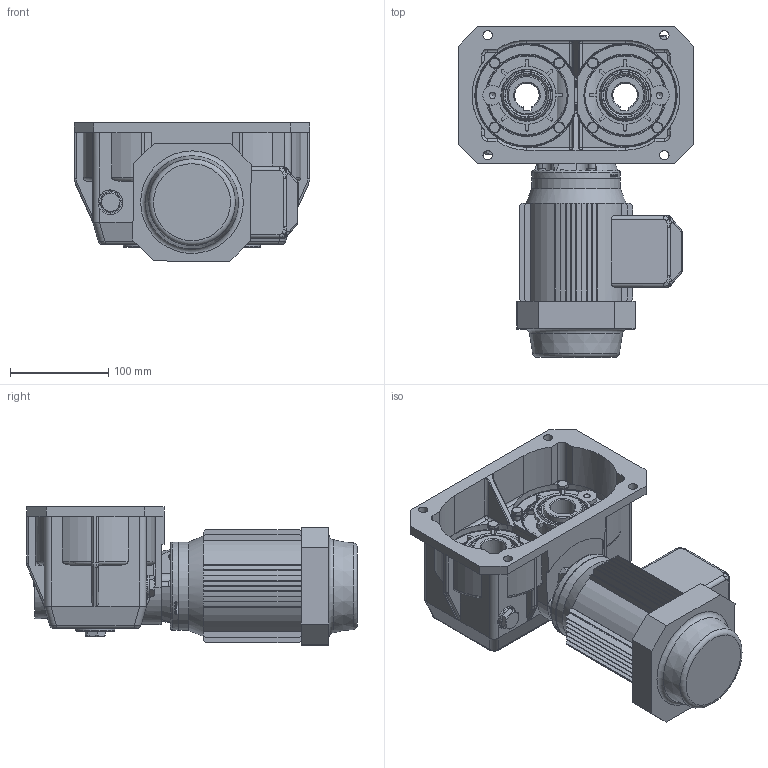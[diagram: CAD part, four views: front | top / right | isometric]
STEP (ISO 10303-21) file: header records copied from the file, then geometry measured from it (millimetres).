
FILE_DESCRIPTION((''),'2;1');
FILE_NAME('Y:\Archivi Inventor\Prog_07\int_100\Figurini\mrv100 2u 100 sito\mrv1002u_63_b14.stp','2013-02-14T10:10:15',('tech3'),(''),'Autodesk Inventor 2013','Autodesk Inventor 2013','');
FILE_SCHEMA(('AUTOMOTIVE_DESIGN { 1 0 10303 214 1 1 1 1 }'));
Length unit declared in the file: millimetre
Products named in the file (14): Fig_MRV 2U int_100; Fig_Carcassa MRV-2U 100; Fig_corona MRV 2u 100; 0101029; Fig_0710002; Coperchietto_42x7; 40_52_8; PARAOLIO 30x55x7; Guarnizione 3_8 GAS; Tappo3_8 GAS; UNI 5931 M 6 x  16; UNI 5739 M6 x 20; 4005006; motori B14 63
Assembly tree (35 placements, depth 2):
  Fig_MRV 2U int_100
    Fig_Carcassa MRV-2U 100
    Fig_corona MRV 2u 100  x2
    0101029  x2
    Fig_0710002  x2
    Coperchietto_42x7
    40_52_8  x4
    PARAOLIO 30x55x7
    Guarnizione 3_8 GAS  x3
    Tappo3_8 GAS  x3
    UNI 5931 M 6 x  16  x6
    UNI 5739 M6 x 20  x8
    4005006
    motori B14 63
Bounding box: 240 x 337 x 141.21 mm (x, y, z)
Volume: 3711936.1 mm3; surface area: 541808.3 mm2
Topology: 35 solids, 41 shells, 1679 faces, 4077 edges, 2525 vertices
Faces by surface type: plane 777, cylinder 481, cone 157, torus 156, bspline 85, sphere 23
Full cylindrical faces by diameter (mm): 4.134 x4, 4.917 x14, 5.5 x4, 6 x14, 6.5 x18, 7 x6, 8.88 x8, 9.5 x4, 10 x6, 11 x9, 12 x6, 13.046 x3, 14.95 x3, 16.3 x3, 22 x6, 25 x3, 33.967 x1, 36.96 x1, 39.95 x4, 40 x6, 42 x2, 42.881 x4, 47.232 x4, 48 x1, 52 x9, 53 x1, 55 x3, 60 x1, 80 x2, 82 x6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
Entity records: 43936 total; most frequent: CARTESIAN_POINT 13382, DIRECTION 6394, ORIENTED_EDGE 5996, EDGE_CURVE 2998, AXIS2_PLACEMENT_3D 2426, VERTEX_POINT 1940, VECTOR 1542, LINE 1542
